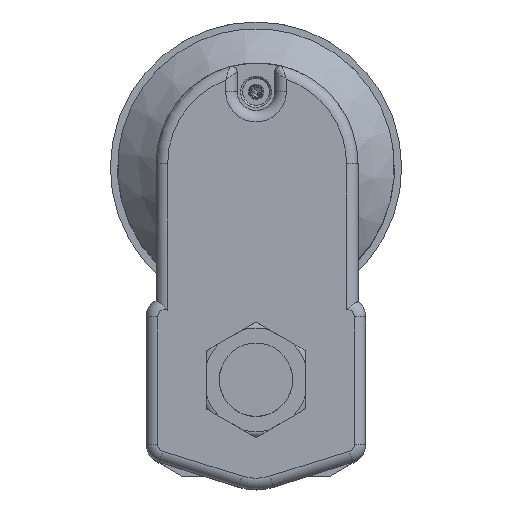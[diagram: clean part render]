
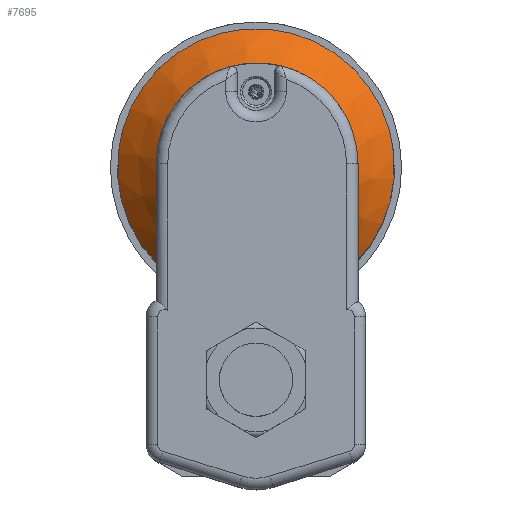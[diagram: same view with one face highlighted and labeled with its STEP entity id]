
A CAD part, top view. The second image highlights one B-rep face of the part: STEP entity #7695.
In plain terms, the highlighted conical face has half-angle 45 degrees and reference radius 48 mm.
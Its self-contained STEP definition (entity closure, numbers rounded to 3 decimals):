
#203 = AXIS2_PLACEMENT_3D ( 'NONE', #8667, #8661, #8659 ) ;
#497 = AXIS2_PLACEMENT_3D ( 'NONE', #4204, #4217, #4218 ) ;
#500 = AXIS2_PLACEMENT_3D ( 'NONE', #4209, #4219, #4220 ) ;
#645 = VERTEX_POINT ( 'NONE', #5522 ) ;
#665 = VERTEX_POINT ( 'NONE', #5538 ) ;
#2813 = CIRCLE ( 'NONE', #497, 48. ) ;
#2815 = CIRCLE ( 'NONE', #500, 34. ) ;
#4120 = CARTESIAN_POINT ( 'NONE',  ( -27.908, 34.847, 53.5 ) ) ;
#4126 = CARTESIAN_POINT ( 'NONE',  ( -26.826, 34.768, 54.065 ) ) ;
#4127 = CARTESIAN_POINT ( 'NONE',  ( -25.733, 34.688, 54.609 ) ) ;
#4128 = CARTESIAN_POINT ( 'NONE',  ( -23.531, 34.53, 55.644 ) ) ;
#4129 = CARTESIAN_POINT ( 'NONE',  ( -22.421, 34.452, 56.137 ) ) ;
#4130 = CARTESIAN_POINT ( 'NONE',  ( -19.06, 34.223, 57.53 ) ) ;
#4131 = CARTESIAN_POINT ( 'NONE',  ( -16.779, 34.077, 58.344 ) ) ;
#4132 = CARTESIAN_POINT ( 'NONE',  ( -13.28, 33.887, 59.356 ) ) ;
#4133 = CARTESIAN_POINT ( 'NONE',  ( -12.101, 33.829, 59.657 ) ) ;
#4134 = CARTESIAN_POINT ( 'NONE',  ( -9.715, 33.725, 60.183 ) ) ;
#4135 = CARTESIAN_POINT ( 'NONE',  ( -8.505, 33.679, 60.407 ) ) ;
#4136 = CARTESIAN_POINT ( 'NONE',  ( -6.081, 33.605, 60.767 ) ) ;
#4137 = CARTESIAN_POINT ( 'NONE',  ( -4.863, 33.577, 60.903 ) ) ;
#4138 = CARTESIAN_POINT ( 'NONE',  ( -2.415, 33.538, 61.085 ) ) ;
#4139 = CARTESIAN_POINT ( 'NONE',  ( -1.188, 33.529, 61.13 ) ) ;
#4140 = CARTESIAN_POINT ( 'NONE',  ( 2.477, 33.529, 61.127 ) ) ;
#4141 = CARTESIAN_POINT ( 'NONE',  ( 4.908, 33.569, 60.942 ) ) ;
#4142 = CARTESIAN_POINT ( 'NONE',  ( 8.537, 33.68, 60.402 ) ) ;
#4143 = CARTESIAN_POINT ( 'NONE',  ( 9.746, 33.726, 60.177 ) ) ;
#4144 = CARTESIAN_POINT ( 'NONE',  ( 12.13, 33.83, 59.65 ) ) ;
#4145 = CARTESIAN_POINT ( 'NONE',  ( 13.307, 33.888, 59.348 ) ) ;
#4146 = CARTESIAN_POINT ( 'NONE',  ( 16.801, 34.078, 58.337 ) ) ;
#4147 = CARTESIAN_POINT ( 'NONE',  ( 19.078, 34.224, 57.523 ) ) ;
#4148 = CARTESIAN_POINT ( 'NONE',  ( 23.55, 34.529, 55.668 ) ) ;
#4149 = CARTESIAN_POINT ( 'NONE',  ( 25.745, 34.688, 54.629 ) ) ;
#4150 = CARTESIAN_POINT ( 'NONE',  ( 27.908, 34.847, 53.5 ) ) ;
#4204 = CARTESIAN_POINT ( 'NONE',  ( 0., 73.9, 53.5 ) ) ;
#4209 = CARTESIAN_POINT ( 'NONE',  ( 0., 73.9, 67.5 ) ) ;
#4217 = DIRECTION ( 'NONE',  ( 0., 0., 1. ) ) ;
#4218 = DIRECTION ( 'NONE',  ( 0., -1., 0. ) ) ;
#4219 = DIRECTION ( 'NONE',  ( 0., 0., 1. ) ) ;
#4220 = DIRECTION ( 'NONE',  ( 0., -1., 0. ) ) ;
#4963 = VERTEX_POINT ( 'NONE', #4964 ) ;
#4964 = CARTESIAN_POINT ( 'NONE',  ( 0., 39.9, 67.5 ) ) ;
#5187 = EDGE_LOOP ( 'NONE', ( #8858 ) ) ;
#5522 = CARTESIAN_POINT ( 'NONE',  ( -27.908, 34.847, 53.5 ) ) ;
#5538 = CARTESIAN_POINT ( 'NONE',  ( 27.908, 34.847, 53.5 ) ) ;
#6754 = FACE_OUTER_BOUND ( 'NONE', #9478, .T. ) ;
#6755 = CONICAL_SURFACE ( 'NONE', #203, 48., 0.785 ) ;
#6757 = FACE_BOUND ( 'NONE', #5187, .T. ) ;
#7695 = ADVANCED_FACE ( 'NONE', ( #6757, #6754 ), #6755, .T. ) ;
#8467 = EDGE_CURVE ( 'NONE', #645, #665, #9746, .T. ) ;
#8496 = EDGE_CURVE ( 'NONE', #665, #645, #2813, .T. ) ;
#8497 = EDGE_CURVE ( 'NONE', #4963, #4963, #2815, .T. ) ;
#8659 = DIRECTION ( 'NONE',  ( 0., 1., 0. ) ) ;
#8661 = DIRECTION ( 'NONE',  ( 0., 0., -1. ) ) ;
#8667 = CARTESIAN_POINT ( 'NONE',  ( 0., 73.9, 53.5 ) ) ;
#8853 = ORIENTED_EDGE ( 'NONE', *, *, #8467, .T. ) ;
#8858 = ORIENTED_EDGE ( 'NONE', *, *, #8497, .F. ) ;
#8859 = ORIENTED_EDGE ( 'NONE', *, *, #8496, .T. ) ;
#9478 = EDGE_LOOP ( 'NONE', ( #8859, #8853 ) ) ;
#9746 = B_SPLINE_CURVE_WITH_KNOTS ( 'NONE', 3,
 ( #4120, #4126, #4127, #4128, #4129, #4130, #4131, #4132, #4133, #4134, #4135, #4136, #4137, #4138, #4139, #4140, #4141, #4142, #4143, #4144, #4145, #4146, #4147, #4148, #4149, #4150 ),
 .UNSPECIFIED., .F., .F.,
 ( 4, 2, 2, 2, 2, 2, 2, 2, 2, 2, 2, 2, 4 ),
 ( 0., 0.004, 0.007, 0.015, 0.018, 0.022, 0.026, 0.029, 0.037, 0.04, 0.044, 0.051, 0.059 ),
 .UNSPECIFIED. ) ;
